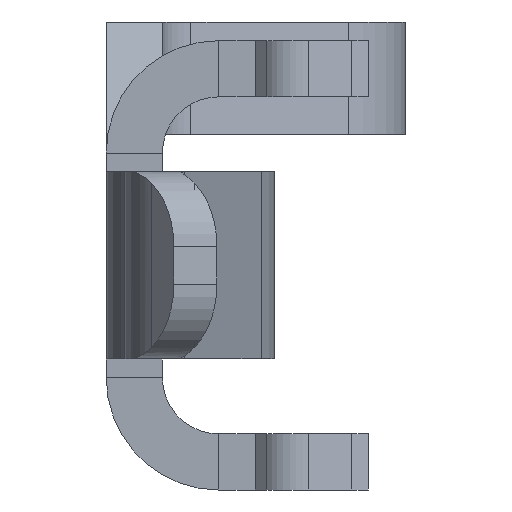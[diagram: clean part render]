
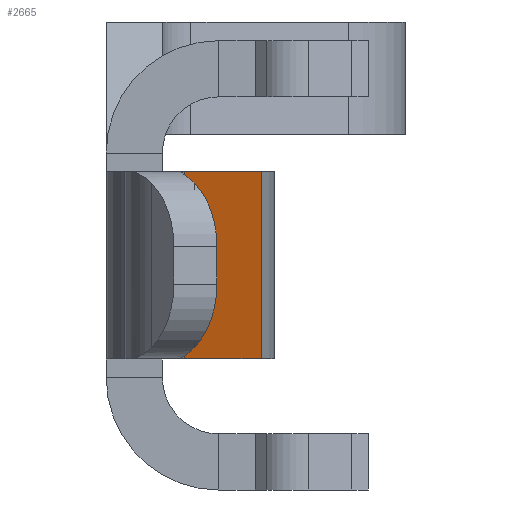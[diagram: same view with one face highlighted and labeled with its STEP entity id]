
A CAD part, left-side view. The second image highlights one B-rep face of the part: STEP entity #2665.
In plain terms, the highlighted planar face has unit normal (-0.342, -0.94, 0).
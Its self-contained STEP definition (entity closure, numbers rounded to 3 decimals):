
#847=DIRECTION('',(0.,0.,1.));
#848=VECTOR('',#847,0.5);
#849=CARTESIAN_POINT('',(-3.886,-0.264,-0.5));
#850=LINE('',#849,#848);
#881=DIRECTION('',(-0.94,0.342,0.));
#882=VECTOR('',#881,0.599);
#883=CARTESIAN_POINT('',(-3.886,-0.264,0.));
#884=LINE('',#883,#882);
#889=DIRECTION('',(-0.94,0.342,0.));
#890=VECTOR('',#889,0.599);
#891=CARTESIAN_POINT('',(-3.886,-0.264,-0.5));
#892=LINE('',#891,#890);
#1011=DIRECTION('',(0.,0.,-1.));
#1012=VECTOR('',#1011,0.5);
#1013=CARTESIAN_POINT('',(-4.449,-0.059,0.));
#1014=LINE('',#1013,#1012);
#1257=CARTESIAN_POINT('',(-3.886,-0.264,0.));
#1258=VERTEX_POINT('',#1257);
#1261=CARTESIAN_POINT('',(-3.886,-0.264,-0.5));
#1262=VERTEX_POINT('',#1261);
#1269=CARTESIAN_POINT('',(-4.449,-0.059,0.));
#1270=VERTEX_POINT('',#1269);
#1271=CARTESIAN_POINT('',(-4.449,-0.059,-0.5));
#1272=VERTEX_POINT('',#1271);
#2652=CARTESIAN_POINT('',(-4.449,-0.059,0.));
#2653=DIRECTION('',(-0.342,-0.94,0.));
#2654=DIRECTION('',(0.94,-0.342,0.));
#2655=AXIS2_PLACEMENT_3D('',#2652,#2653,#2654);
#2656=PLANE('',#2655);
#2657=ORIENTED_EDGE('',*,*,#2643,.F.);
#2658=ORIENTED_EDGE('',*,*,#2590,.F.);
#2660=ORIENTED_EDGE('',*,*,#2659,.T.);
#2662=ORIENTED_EDGE('',*,*,#2661,.F.);
#2663=EDGE_LOOP('',(#2657,#2658,#2660,#2662));
#2664=FACE_OUTER_BOUND('',#2663,.F.);
#2665=ADVANCED_FACE('',(#2664),#2656,.T.);
#2590=EDGE_CURVE('',#1262,#1258,#850,.T.);
#2643=EDGE_CURVE('',#1258,#1270,#884,.T.);
#2659=EDGE_CURVE('',#1262,#1272,#892,.T.);
#2661=EDGE_CURVE('',#1270,#1272,#1014,.T.);
